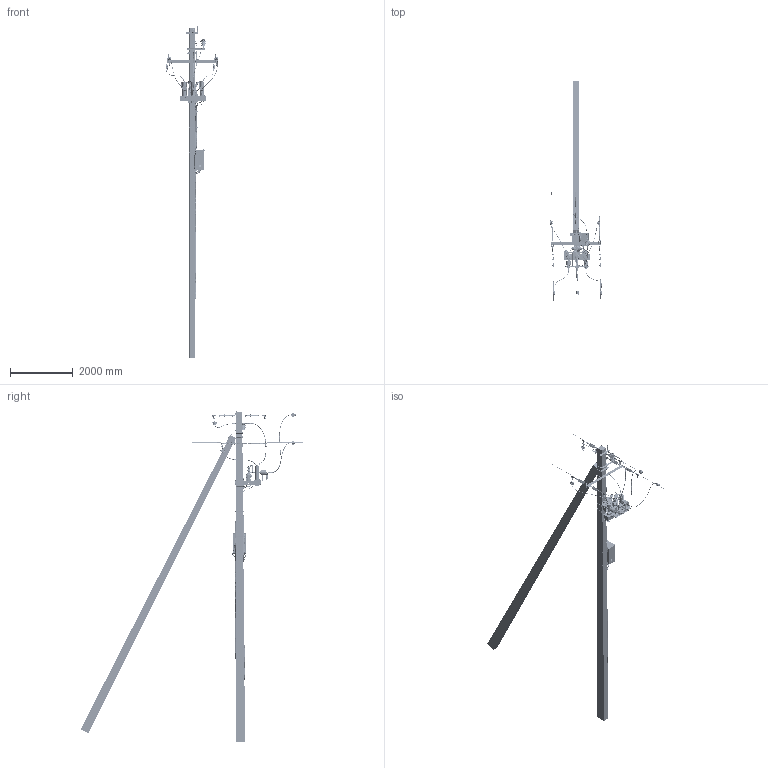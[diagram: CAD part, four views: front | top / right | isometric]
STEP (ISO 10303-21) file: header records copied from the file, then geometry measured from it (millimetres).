
FILE_DESCRIPTION(('STEP AP203'), '1');
FILE_NAME('02_À10+AR12-1', '', ('UNSPECIFIED'), ('UNSPECIFIED'), 'C3D Converter', 'C3D Toolkit', '');
FILE_SCHEMA(('CONFIG_CONTROL_DESIGN'));
Length unit declared in the file: millimetre
Products named in the file (185): 3.17/5-28; Cable Gland PG7-PG19 Body_PG13.5; Cable Gland PG7-PG19 Washer_PG13.5; Cable Gland PG7-PG19 Lock Nut_PG13.5; Cable Gland PG7-PG19 Sleeve_PG13.5; Cable Gland PG7-PG19 Gland Nut_PG13.5; Cable Gland PG7-PG19 Body_PG9; Cable Gland PG7-PG19 Washer_PG9; Cable Gland PG7-PG19 Lock Nut_PG9; Cable Gland PG7-PG19 Sleeve_PG9; Cable Gland PG7-PG19 Gland Nut_PG9; 76_320_0729_0_E; 73_300_0353_0_E; PGA 101; 73_310_0353_0_E
Assembly tree (392 placements, depth 5):
  (unnamed)
    (unnamed)  x2
      (unnamed)
    (unnamed)
    (unnamed)
    (unnamed)
      (unnamed)
    (unnamed)
      (unnamed)
    (unnamed)
      (unnamed)
        (unnamed)
        (unnamed)  x2
        (unnamed)  x2
      (unnamed)
      (unnamed)
      (unnamed)
        (unnamed)
        (unnamed)  x2
        (unnamed)  x2
        (unnamed)  x4
        (unnamed)  x4
      (unnamed)
        (unnamed)
        (unnamed)
        (unnamed)
          (unnamed)
          (unnamed)
        (unnamed)
        (unnamed)
    (unnamed)
      (unnamed)
        (unnamed)
        (unnamed)  x2
        (unnamed)  x2
      (unnamed)
      (unnamed)
      (unnamed)
        (unnamed)
        (unnamed)  x2
        (unnamed)  x2
        (unnamed)  x4
        (unnamed)  x4
      (unnamed)
        (unnamed)
        (unnamed)
        (unnamed)
          (unnamed)
          (unnamed)
        (unnamed)
        (unnamed)
    (unnamed)
      (unnamed)
        (unnamed)
        (unnamed)  x2
        (unnamed)  x2
      (unnamed)
      (unnamed)
      (unnamed)
        (unnamed)
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Bounding box: 1686.61 x 7086.54 x 10571 mm (x, y, z)
Volume: 1002040712.4 mm3; surface area: 32064129.3 mm2
Topology: 726 solids, 797 shells, 21175 faces, 54105 edges, 35075 vertices
Faces by surface type: plane 10018, cylinder 6627, bspline 2460, cone 1139, torus 674, sphere 133, extrusion 72, revolution 52
Full cylindrical faces by diameter (mm): 1.2 x12, 1.4 x18, 2 x32, 2.5 x9, 3 x51, 3.1 x2, 3.3 x10, 3.35 x2, 3.5 x20, 3.65 x2, 4 x25, 4.134 x8, 4.5 x8, 4.8 x8, 4.917 x8, 5 x16, 5.3 x12, 5.5 x9, 6 x68, 6.4 x14, 6.5 x11, 6.6 x4, 7 x19, 7.1 x8, 8 x16, 8.174 x3, 8.2 x2, 8.253 x3, 8.5 x2, 8.85 x3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
Entity records: 657551 total; most frequent: CARTESIAN_POINT 335560, DIRECTION 49551, ORIENTED_EDGE 49475, EDGE_CURVE 24772, AXIS2_PLACEMENT_3D 18051, VERTEX_POINT 16989, VECTOR 13435, LINE 13363
